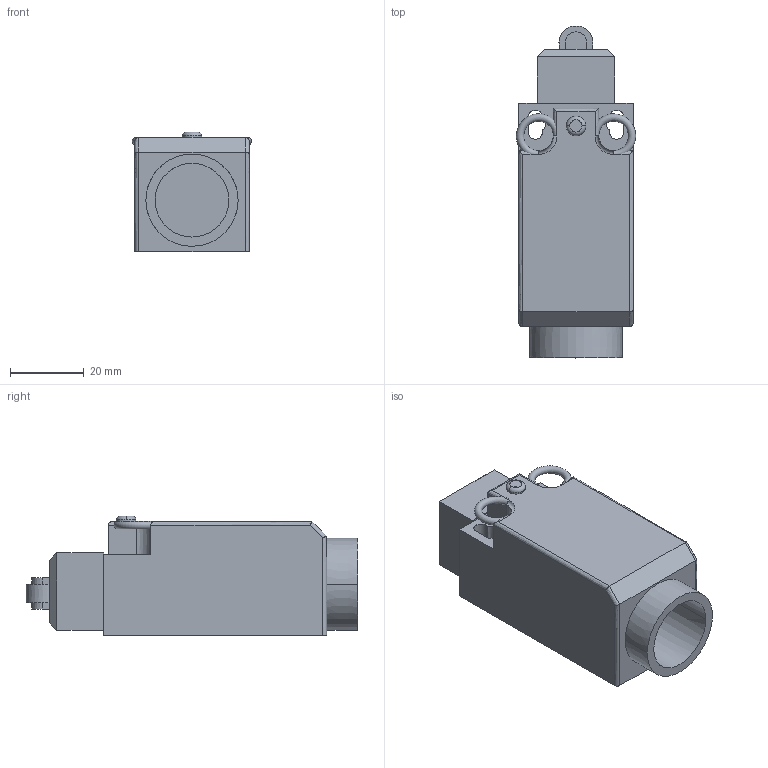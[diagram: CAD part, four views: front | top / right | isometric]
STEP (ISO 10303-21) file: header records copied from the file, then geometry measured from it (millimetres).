
FILE_DESCRIPTION((''),'2;1');
FILE_NAME('440P-C_RP_20MM','2013-02-05T',('Administrator'),(''),'PRO/ENGINEER BY PARAMETRIC TECHNOLOGY CORPORATION, 2006010','PRO/ENGINEER BY PARAMETRIC TECHNOLOGY CORPORATION, 2006010','');
FILE_SCHEMA(('CONFIG_CONTROL_DESIGN'));
Length unit declared in the file: millimetre
Products named in the file (1): 440P-C_RP_20MM
Bounding box: 32.32 x 89.98 x 32.44 mm (x, y, z)
Surface area: 13795.2 mm2 (no closed solid volume)
Topology: 0 solids, 0 shells, 82 faces, 603 edges, 779 vertices
Faces by surface type: bspline 78, torus 4
Entity records: 8112 total; most frequent: CARTESIAN_POINT 3532, DIRECTION 830, TRIMMED_CURVE 715, VECTOR 610, LINE 610, DEFINITIONAL_REPRESENTATION 404, PCURVE 404, COMPOSITE_CURVE_SEGMENT 404
